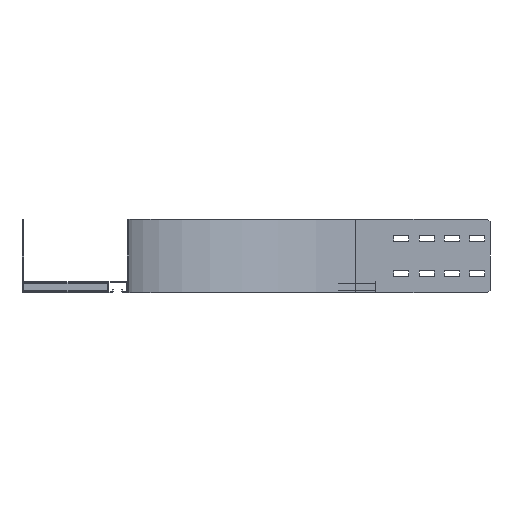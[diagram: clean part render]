
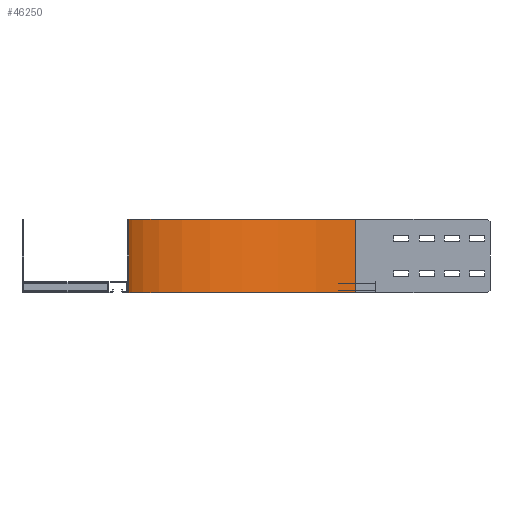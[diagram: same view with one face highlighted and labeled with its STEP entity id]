
A CAD part, left-side view. The second image highlights one B-rep face of the part: STEP entity #46250.
In plain terms, the highlighted cylindrical face has radius 447 mm (diameter 894 mm), a partial arc.
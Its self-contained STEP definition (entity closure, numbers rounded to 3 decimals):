
#23910=CARTESIAN_POINT('',(0.,-450.,0.));
#23920=DIRECTION('',(0.,0.,-1.));
#23930=DIRECTION('',(-1.,0.,0.));
#23940=AXIS2_PLACEMENT_3D('',#23910,#23920,#23930);
#23950=CIRCLE('',#23940,447.);
#23960=CARTESIAN_POINT('',(0.,-3.,0.));
#23970=VERTEX_POINT('',#23960);
#23980=CARTESIAN_POINT('',(447.,-450.,0.));
#23990=VERTEX_POINT('',#23980);
#24000=EDGE_CURVE('',#23970,#23990,#23950,.T.);
#28060=CARTESIAN_POINT('',(0.,-3.,-145.));
#28070=VERTEX_POINT('',#28060);
#28100=CARTESIAN_POINT('',(0.,-450.,-145.));
#28110=DIRECTION('',(0.,0.,-1.));
#28120=DIRECTION('',(-1.,0.,0.));
#28130=AXIS2_PLACEMENT_3D('',#28100,#28110,#28120);
#28140=CIRCLE('',#28130,447.);
#28150=CARTESIAN_POINT('',(447.,-450.,-145.));
#28160=VERTEX_POINT('',#28150);
#28170=EDGE_CURVE('',#28070,#28160,#28140,.T.);
#31830=CARTESIAN_POINT('',(447.,-450.,0.));
#31840=DIRECTION('',(0.,0.,-1.));
#31850=VECTOR('',#31840,1.);
#31860=LINE('',#31830,#31850);
#31870=EDGE_CURVE('',#23990,#28160,#31860,.T.);
#37630=CARTESIAN_POINT('',(0.,-3.,0.));
#37640=DIRECTION('',(0.,0.,-1.));
#37650=VECTOR('',#37640,1.);
#37660=LINE('',#37630,#37650);
#37670=EDGE_CURVE('',#23970,#28070,#37660,.T.);
#46140=CARTESIAN_POINT('',(0.,-450.,0.));
#46150=DIRECTION('',(0.,0.,-1.));
#46160=DIRECTION('',(-1.,0.,0.));
#46170=AXIS2_PLACEMENT_3D('',#46140,#46150,#46160);
#46180=CYLINDRICAL_SURFACE('',#46170,447.);
#46190=ORIENTED_EDGE('',*,*,#24000,.F.);
#46200=ORIENTED_EDGE('',*,*,#31870,.F.);
#46210=ORIENTED_EDGE('',*,*,#28170,.T.);
#46220=ORIENTED_EDGE('',*,*,#37670,.T.);
#46230=EDGE_LOOP('',(#46220,#46210,#46200,#46190));
#46240=FACE_OUTER_BOUND('',#46230,.T.);
#46250=ADVANCED_FACE('',(#46240),#46180,.F.);
